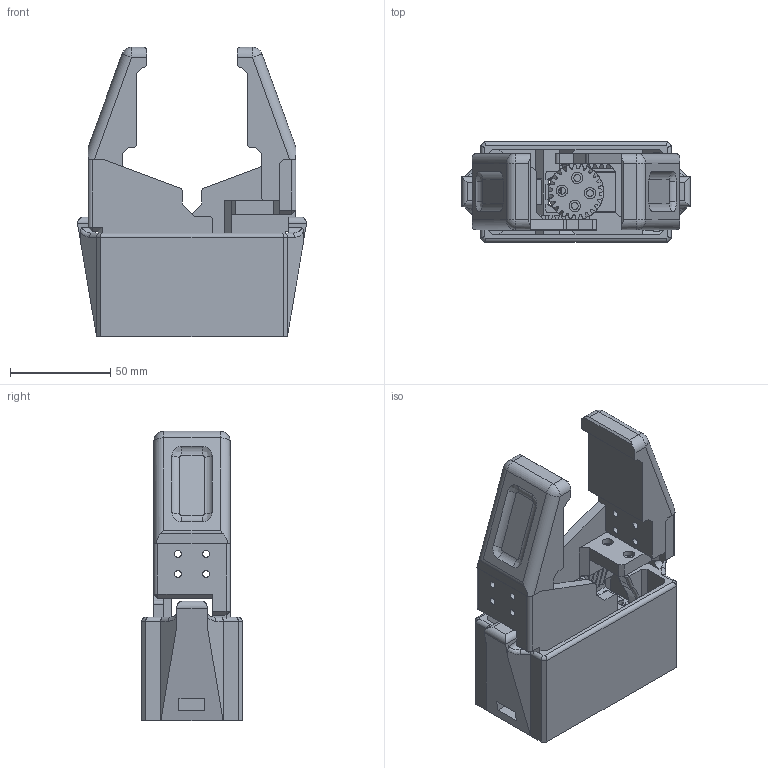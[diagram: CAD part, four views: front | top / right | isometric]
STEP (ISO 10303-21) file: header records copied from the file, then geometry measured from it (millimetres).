
FILE_DESCRIPTION(/* description */ (''),/* implementation_level */ '2;1');
FILE_NAME(/* name */ 'gripper elico LML9B TD9512.stp',/* time_stamp */ '2025-12-20T10:51:29+01:00',/* author */ ('R5800u'),/* organization */ (''),/* preprocessor_version */ 'ST-DEVELOPER v20',/* originating_system */ 'Autodesk Inventor 2025',/* authorisation */ '');
FILE_SCHEMA (('AUTOMOTIVE_DESIGN { 1 0 10303 214 3 1 1 }'));
Length unit declared in the file: millimetre
Products named in the file (7): Assieme_elicoidale2; pignone_elicoidale2; cremagliera_elicoidale; dito_elicoidale; scatola; TD-9512MG v1; blocco_laterale_motore
Assembly tree (8 placements, depth 2):
  Assieme_elicoidale2
    cremagliera_elicoidale  x2
    pignone_elicoidale2
    dito_elicoidale  x2
    scatola
    TD-9512MG v1
    blocco_laterale_motore
Bounding box: 113.91 x 50 x 144 mm (x, y, z)
Volume: 260259.9 mm3; surface area: 94808.3 mm2
Topology: 10 solids, 10 shells, 1025 faces, 2743 edges, 1787 vertices
Faces by surface type: plane 580, cylinder 240, bspline 176, sphere 16, cone 7, torus 6
Full cylindrical faces by diameter (mm): 2.459 x1, 2.8 x2, 3 x2, 3.4 x38, 4.901 x1, 5.6 x14, 5.7 x2, 6 x1, 10 x1, 20 x1
Entity records: 34680 total; most frequent: CARTESIAN_POINT 13892, ORIENTED_EDGE 4544, DIRECTION 3670, EDGE_CURVE 2272, LINE 1506, VECTOR 1506, VERTEX_POINT 1482, AXIS2_PLACEMENT_3D 1082
